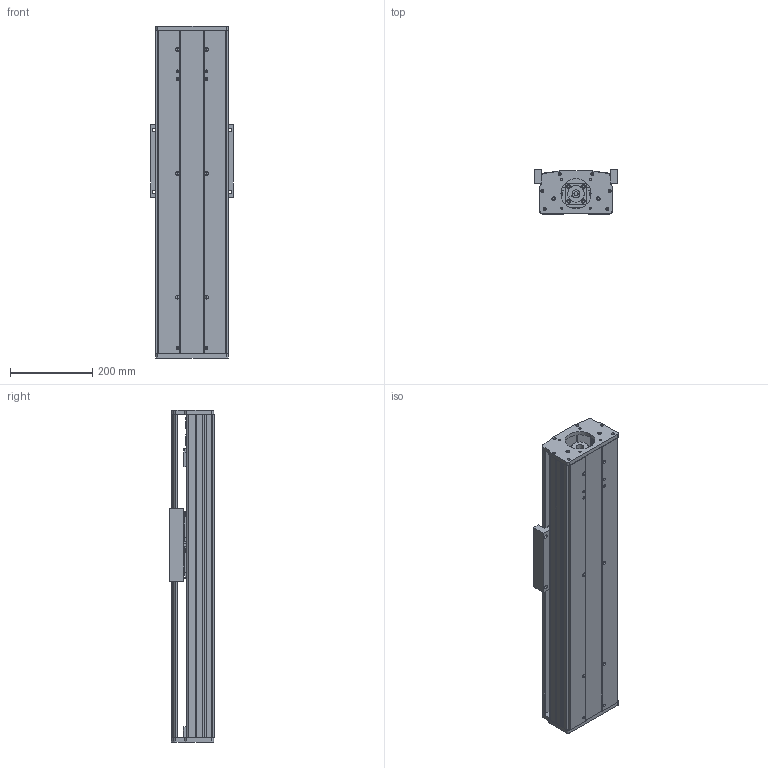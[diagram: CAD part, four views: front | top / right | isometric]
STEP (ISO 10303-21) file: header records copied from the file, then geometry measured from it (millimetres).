
FILE_DESCRIPTION (( 'STEP AP203' ), '1' );
FILE_NAME ('CF175-1-P450.STEP', '2016-02-23T06:57:42', ( 'Sky123.Org' ), ( 'Sky123.Org' ), 'SwSTEP 2.0', 'SolidWorks 2015', '' );
FILE_SCHEMA (( 'CONFIG_CONTROL_DESIGN' ));
Length unit declared in the file: millimetre
Products named in the file (23): CF175-1175臏倰第; BF; CF-HGH20CA賑輸; 1; deep groove ball bearings gb_Rolling bearings 6004 GB 276-94; 175賑雄啣; 蝶菜; BF20蚾饜极1; BK20; 40-66; cf175-SFS2525蹟譫釱; 綴杶; HGR20絳寢-1140; SFU2510-BK20+BF20; ヶ杶; SFU2510-4; 175-1-86祭輛萇儂釱; 粣創裔; CF175-1-P450; 175-1耜啣; angular contact ball bearings gb_Rolling bearings S7004 GB 292-94; CF175-1175裔啣; BK20蚾饜极1
Assembly tree (28 placements, depth 3):
  CF175-1-P450
    CF-HGH20CA賑輸  x4
    175賑雄啣
    BK20蚾饜极1
      BK20
      綴杶
      ヶ杶
      粣創裔
      angular contact ball bearings gb_Rolling bearings S7004 GB 292-94  x2
    BF20蚾饜极1
      BF
      deep groove ball bearings gb_Rolling bearings 6004 GB 276-94
    cf175-SFS2525蹟譫釱
    SFU2510-BK20+BF20
    175-1-86祭輛萇儂釱
    175-1耜啣
    CF175-1175裔啣
    CF175-1175臏倰第
    40-66
      1  x2
      蝶菜
    HGR20絳寢-1140  x2
    SFU2510-4
Bounding box: 200 x 107.5 x 805 mm (x, y, z)
Volume: 6652377.3 mm3; surface area: 1776415.4 mm2
Topology: 29 solids, 29 shells, 1676 faces, 5182 edges, 3454 vertices
Faces by surface type: cylinder 706, plane 684, torus 168, sphere 96, cone 20, bspline 2
Entity records: 51672 total; most frequent: CARTESIAN_POINT 16307, ORIENTED_EDGE 7056, DIRECTION 6747, EDGE_CURVE 3528, AXIS2_PLACEMENT_3D 2606, VERTEX_POINT 2349, VECTOR 1535, LINE 1535
